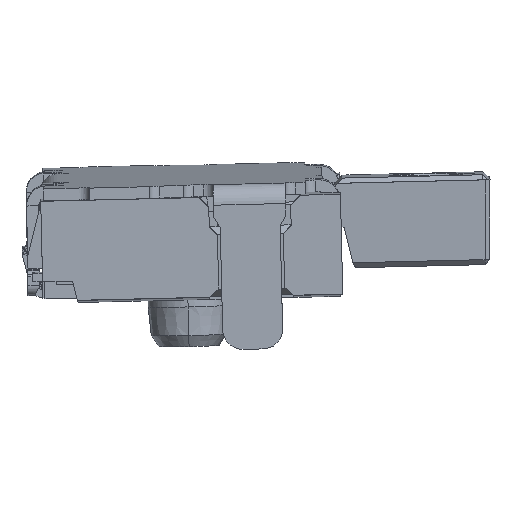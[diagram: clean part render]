
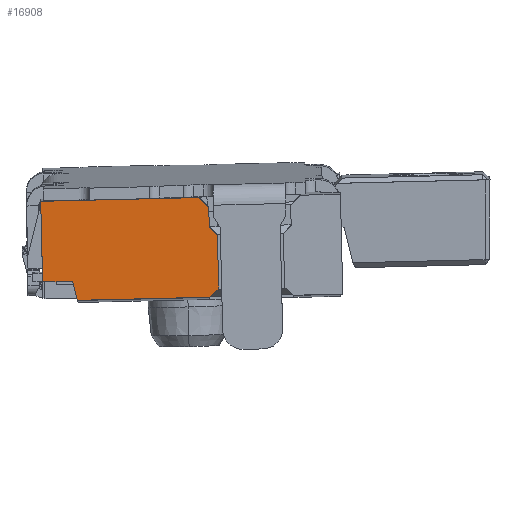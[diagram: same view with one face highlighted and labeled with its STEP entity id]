
A CAD part, left-side view. The second image highlights one B-rep face of the part: STEP entity #16908.
In plain terms, the highlighted planar face has unit normal (-1, -0.001, -0.024).
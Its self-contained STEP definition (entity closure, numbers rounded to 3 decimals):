
#910 = VERTEX_POINT ( 'NONE', #4400 ) ;
#912 = EDGE_CURVE ( 'NONE', #30159, #910, #4399, .T. ) ;
#4396 = DIRECTION ( 'NONE',  ( 0.024, -0.024, -0.999 ) ) ;
#4397 = VECTOR ( 'NONE', #4396, 1000. ) ;
#4398 = CARTESIAN_POINT ( 'NONE',  ( -4.539, -0.247, 0.549 ) ) ;
#4399 = LINE ( 'NONE', #4398, #4397 ) ;
#4400 = CARTESIAN_POINT ( 'NONE',  ( -4.526, -0.26, 0. ) ) ;
#16113 = CARTESIAN_POINT ( 'NONE',  ( -4.524, -0.172, -0.072 ) ) ;
#16114 = CARTESIAN_POINT ( 'NONE',  ( -4.524, 1.155, -0.104 ) ) ;
#16115 = DIRECTION ( 'NONE',  ( 0., 1., -0.024 ) ) ;
#16116 = VECTOR ( 'NONE', #16115, 1000. ) ;
#16117 = CARTESIAN_POINT ( 'NONE',  ( -4.524, -0.172, -0.072 ) ) ;
#16118 = LINE ( 'NONE', #16117, #16116 ) ;
#16137 = CARTESIAN_POINT ( 'NONE',  ( -4.541, -0.165, 0.627 ) ) ;
#16142 = DIRECTION ( 'NONE',  ( -0.023, 0.241, 0.97 ) ) ;
#16143 = VECTOR ( 'NONE', #16142, 1000. ) ;
#16144 = CARTESIAN_POINT ( 'NONE',  ( -4.524, 1.155, -0.104 ) ) ;
#16145 = LINE ( 'NONE', #16144, #16143 ) ;
#16152 = CARTESIAN_POINT ( 'NONE',  ( -4.539, -0.247, 0.549 ) ) ;
#16153 = CARTESIAN_POINT ( 'NONE',  ( -4.529, 1.202, 0.089 ) ) ;
#16203 = DIRECTION ( 'NONE',  ( 0.017, -0.724, -0.69 ) ) ;
#16204 = VECTOR ( 'NONE', #16203, 1000. ) ;
#16205 = CARTESIAN_POINT ( 'NONE',  ( -4.541, -0.165, 0.627 ) ) ;
#16206 = LINE ( 'NONE', #16205, #16204 ) ;
#16569 = DIRECTION ( 'NONE',  ( 0.017, -0.724, -0.69 ) ) ;
#16570 = VECTOR ( 'NONE', #16569, 1000. ) ;
#16571 = CARTESIAN_POINT ( 'NONE',  ( -4.548, -0.058, 0.925 ) ) ;
#16572 = LINE ( 'NONE', #16571, #16570 ) ;
#16573 = DIRECTION ( 'NONE',  ( 0.024, -0.024, -0.999 ) ) ;
#16574 = VECTOR ( 'NONE', #16573, 1000. ) ;
#16575 = CARTESIAN_POINT ( 'NONE',  ( -4.546, -0.161, 0.827 ) ) ;
#16576 = LINE ( 'NONE', #16575, #16574 ) ;
#16581 = CARTESIAN_POINT ( 'NONE',  ( -4.546, -0.161, 0.827 ) ) ;
#16625 = CARTESIAN_POINT ( 'NONE',  ( -4.548, -0.058, 0.925 ) ) ;
#16676 = VERTEX_POINT ( 'NONE', #17374 ) ;
#16679 = EDGE_CURVE ( 'NONE', #16676, #27686, #17373, .T. ) ;
#16882 = VERTEX_POINT ( 'NONE', #17936 ) ;
#16896 = EDGE_CURVE ( 'NONE', #16882, #32338, #17952, .T. ) ;
#16901 = ORIENTED_EDGE ( 'NONE', *, *, #31570, .F. ) ;
#16908 = ADVANCED_FACE ( 'NONE', ( #17984 ), #18030, .F. ) ;
#16912 = ORIENTED_EDGE ( 'NONE', *, *, #30357, .F. ) ;
#16922 = EDGE_LOOP ( 'NONE', ( #16912, #16925, #16901, #16957, #16943, #16944, #16930, #16942, #16929, #16934, #16933 ) ) ;
#16925 = ORIENTED_EDGE ( 'NONE', *, *, #31560, .F. ) ;
#16928 = EDGE_CURVE ( 'NONE', #16676, #910, #18003, .T. ) ;
#16929 = ORIENTED_EDGE ( 'NONE', *, *, #16679, .F. ) ;
#16930 = ORIENTED_EDGE ( 'NONE', *, *, #30210, .F. ) ;
#16932 = VERTEX_POINT ( 'NONE', #18053 ) ;
#16933 = ORIENTED_EDGE ( 'NONE', *, *, #912, .F. ) ;
#16934 = ORIENTED_EDGE ( 'NONE', *, *, #16928, .T. ) ;
#16936 = EDGE_CURVE ( 'NONE', #16932, #30134, #18051, .T. ) ;
#16941 = EDGE_CURVE ( 'NONE', #16882, #16932, #18042, .T. ) ;
#16942 = ORIENTED_EDGE ( 'NONE', *, *, #27681, .F. ) ;
#16943 = ORIENTED_EDGE ( 'NONE', *, *, #16941, .T. ) ;
#16944 = ORIENTED_EDGE ( 'NONE', *, *, #16936, .T. ) ;
#16957 = ORIENTED_EDGE ( 'NONE', *, *, #16896, .F. ) ;
#17370 = DIRECTION ( 'NONE',  ( 0.017, 0.69, -0.723 ) ) ;
#17371 = VECTOR ( 'NONE', #17370, 1000. ) ;
#17372 = CARTESIAN_POINT ( 'NONE',  ( -4.526, -0.24, -0.001 ) ) ;
#17373 = LINE ( 'NONE', #17372, #17371 ) ;
#17374 = CARTESIAN_POINT ( 'NONE',  ( -4.526, -0.24, -0.001 ) ) ;
#17936 = CARTESIAN_POINT ( 'NONE',  ( -4.548, 1.521, 0.888 ) ) ;
#17949 = DIRECTION ( 'NONE',  ( 0., -1., 0.024 ) ) ;
#17950 = VECTOR ( 'NONE', #17949, 1000. ) ;
#17951 = CARTESIAN_POINT ( 'NONE',  ( -4.548, 1.521, 0.888 ) ) ;
#17952 = LINE ( 'NONE', #17951, #17950 ) ;
#17984 = FACE_OUTER_BOUND ( 'NONE', #16922, .T. ) ;
#18003 = LINE ( 'NONE', #18060, #18059 ) ;
#18026 = DIRECTION ( 'NONE',  ( 0.024, 0., -1. ) ) ;
#18027 = DIRECTION ( 'NONE',  ( 1., 0.001, 0.024 ) ) ;
#18028 = CARTESIAN_POINT ( 'NONE',  ( -4.524, -0.262, -0.07 ) ) ;
#18029 = AXIS2_PLACEMENT_3D ( 'NONE', #18028, #18027, #18026 ) ;
#18030 = PLANE ( 'NONE',  #18029 ) ;
#18039 = DIRECTION ( 'NONE',  ( 0.024, -0.024, -0.999 ) ) ;
#18040 = VECTOR ( 'NONE', #18039, 1000. ) ;
#18041 = CARTESIAN_POINT ( 'NONE',  ( -4.548, 1.521, 0.888 ) ) ;
#18042 = LINE ( 'NONE', #18041, #18040 ) ;
#18048 = DIRECTION ( 'NONE',  ( 0., -1., 0.024 ) ) ;
#18049 = VECTOR ( 'NONE', #18048, 1000. ) ;
#18050 = CARTESIAN_POINT ( 'NONE',  ( -4.529, 1.502, 0.082 ) ) ;
#18051 = LINE ( 'NONE', #18050, #18049 ) ;
#18053 = CARTESIAN_POINT ( 'NONE',  ( -4.529, 1.502, 0.082 ) ) ;
#18058 = DIRECTION ( 'NONE',  ( 0., -1., 0.024 ) ) ;
#18059 = VECTOR ( 'NONE', #18058, 1000. ) ;
#18060 = CARTESIAN_POINT ( 'NONE',  ( -4.526, -0.24, -0.001 ) ) ;
#27681 = EDGE_CURVE ( 'NONE', #27686, #27684, #16118, .T. ) ;
#27684 = VERTEX_POINT ( 'NONE', #16114 ) ;
#27686 = VERTEX_POINT ( 'NONE', #16113 ) ;
#30134 = VERTEX_POINT ( 'NONE', #16153 ) ;
#30159 = VERTEX_POINT ( 'NONE', #16152 ) ;
#30210 = EDGE_CURVE ( 'NONE', #27684, #30134, #16145, .T. ) ;
#30230 = VERTEX_POINT ( 'NONE', #16137 ) ;
#30357 = EDGE_CURVE ( 'NONE', #30230, #30159, #16206, .T. ) ;
#31531 = VERTEX_POINT ( 'NONE', #16581 ) ;
#31560 = EDGE_CURVE ( 'NONE', #31531, #30230, #16576, .T. ) ;
#31570 = EDGE_CURVE ( 'NONE', #32338, #31531, #16572, .T. ) ;
#32338 = VERTEX_POINT ( 'NONE', #16625 ) ;
